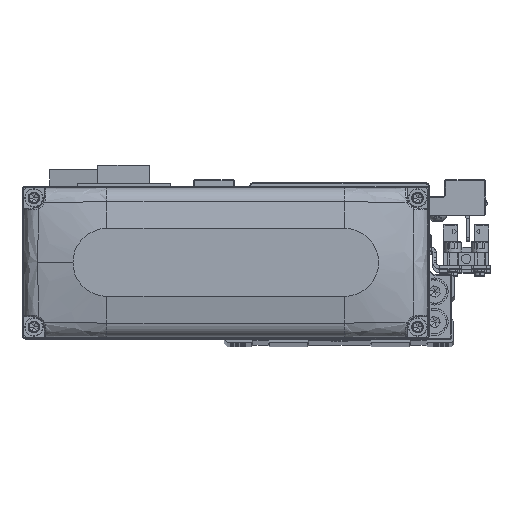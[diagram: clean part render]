
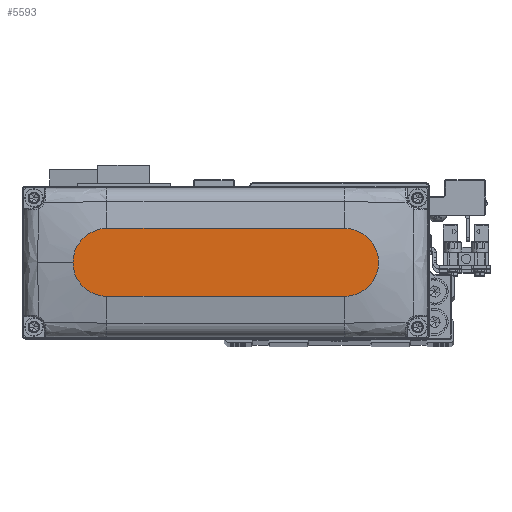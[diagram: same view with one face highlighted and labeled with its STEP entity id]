
A CAD part, top view. The second image highlights one B-rep face of the part: STEP entity #5593.
In plain terms, the highlighted planar face has unit normal (0, 0, 1).
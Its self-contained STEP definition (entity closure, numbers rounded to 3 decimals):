
#977 = DIRECTION ( 'NONE',  ( 1., 0., 0. ) ) ;
#1160 = AXIS2_PLACEMENT_3D ( 'NONE', #29955, #1759, #14286 ) ;
#1570 = DIRECTION ( 'NONE',  ( 1., 0., 0. ) ) ;
#1759 = DIRECTION ( 'NONE',  ( 0., 0., 1. ) ) ;
#2743 = ORIENTED_EDGE ( 'NONE', *, *, #22939, .T. ) ;
#3482 = CIRCLE ( 'NONE', #26497, 10. ) ;
#4613 = EDGE_CURVE ( 'NONE', #35391, #15699, #6445, .T. ) ;
#4656 = PLANE ( 'NONE',  #34499 ) ;
#5593 = ADVANCED_FACE ( 'NONE', ( #32883 ), #4656, .T. ) ;
#6445 = LINE ( 'NONE', #18977, #22787 ) ;
#7036 = DIRECTION ( 'NONE',  ( -1., 0., 0. ) ) ;
#7150 = DIRECTION ( 'NONE',  ( 0., 0., 1. ) ) ;
#9983 = ORIENTED_EDGE ( 'NONE', *, *, #28549, .T. ) ;
#12177 = AXIS2_PLACEMENT_3D ( 'NONE', #35379, #7150, #19681 ) ;
#14286 = DIRECTION ( 'NONE',  ( 1., 0., 0. ) ) ;
#15699 = VERTEX_POINT ( 'NONE', #27635 ) ;
#15917 = ORIENTED_EDGE ( 'NONE', *, *, #39178, .T. ) ;
#16582 = CARTESIAN_POINT ( 'NONE',  ( 35., 0., 28. ) ) ;
#17021 = ORIENTED_EDGE ( 'NONE', *, *, #31216, .T. ) ;
#17175 = CARTESIAN_POINT ( 'NONE',  ( 0., 0., 28. ) ) ;
#18743 = CARTESIAN_POINT ( 'NONE',  ( 45., 0., 28. ) ) ;
#18853 = CIRCLE ( 'NONE', #1160, 10. ) ;
#18977 = CARTESIAN_POINT ( 'NONE',  ( -35., -10., 28. ) ) ;
#19681 = DIRECTION ( 'NONE',  ( 1., 0., 0. ) ) ;
#22677 = LINE ( 'NONE', #35262, #26945 ) ;
#22787 = VECTOR ( 'NONE', #31585, 1000. ) ;
#22939 = EDGE_CURVE ( 'NONE', #39610, #25229, #22677, .T. ) ;
#23850 = VERTEX_POINT ( 'NONE', #18743 ) ;
#25229 = VERTEX_POINT ( 'NONE', #27611 ) ;
#25826 = CARTESIAN_POINT ( 'NONE',  ( 35., 10., 28. ) ) ;
#26497 = AXIS2_PLACEMENT_3D ( 'NONE', #16582, #29185, #977 ) ;
#26945 = VECTOR ( 'NONE', #7036, 1000. ) ;
#27611 = CARTESIAN_POINT ( 'NONE',  ( -35., 10., 28. ) ) ;
#27635 = CARTESIAN_POINT ( 'NONE',  ( 35., -10., 28. ) ) ;
#28549 = EDGE_CURVE ( 'NONE', #25229, #35391, #29974, .T. ) ;
#29185 = DIRECTION ( 'NONE',  ( 0., 0., 1. ) ) ;
#29762 = DIRECTION ( 'NONE',  ( 0., 0., 1. ) ) ;
#29955 = CARTESIAN_POINT ( 'NONE',  ( 35., 0., 28. ) ) ;
#29974 = CIRCLE ( 'NONE', #12177, 10. ) ;
#31216 = EDGE_CURVE ( 'NONE', #23850, #39610, #18853, .T. ) ;
#31585 = DIRECTION ( 'NONE',  ( 1., 0., 0. ) ) ;
#31796 = CARTESIAN_POINT ( 'NONE',  ( -35., -10., 28. ) ) ;
#32883 = FACE_OUTER_BOUND ( 'NONE', #35321, .T. ) ;
#33511 = ORIENTED_EDGE ( 'NONE', *, *, #4613, .T. ) ;
#34499 = AXIS2_PLACEMENT_3D ( 'NONE', #17175, #29762, #1570 ) ;
#35262 = CARTESIAN_POINT ( 'NONE',  ( -35., 10., 28. ) ) ;
#35321 = EDGE_LOOP ( 'NONE', ( #2743, #9983, #33511, #15917, #17021 ) ) ;
#35379 = CARTESIAN_POINT ( 'NONE',  ( -35., 0., 28. ) ) ;
#35391 = VERTEX_POINT ( 'NONE', #31796 ) ;
#39178 = EDGE_CURVE ( 'NONE', #15699, #23850, #3482, .T. ) ;
#39610 = VERTEX_POINT ( 'NONE', #25826 ) ;
